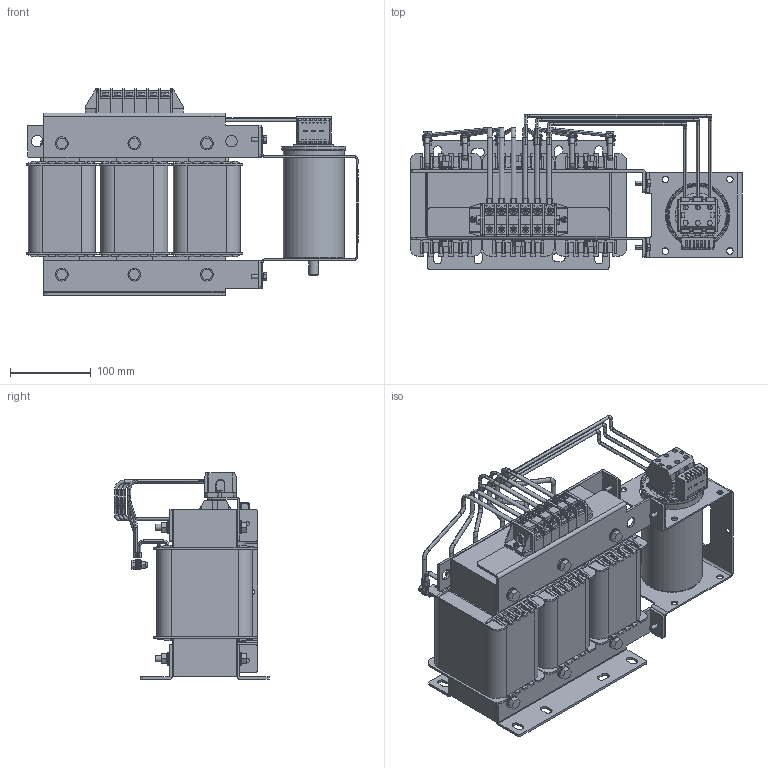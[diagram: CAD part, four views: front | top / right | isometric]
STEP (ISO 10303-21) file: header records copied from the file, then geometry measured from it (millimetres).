
FILE_DESCRIPTION (( 'STEP AP203' ), '1' );
FILE_NAME ('蔓躅漤铋 耔眢耥 翳朦蝠 _ ISINOF-22_48-4.STEP', '2026-07-17T07:49:14', ( '' ), ( '' ), 'SwSTEP 2.0', 'SolidWorks 2021', '' );
FILE_SCHEMA (( 'CONFIG_CONTROL_DESIGN' ));
Length unit declared in the file: millimetre
Products named in the file (217): 22KW滤波电抗器380V50Hz_119; 22KW滤波电抗器380V50Hz_203; 22KW滤波电抗器380V50Hz_30; 22KW滤波电抗器380V50Hz_108; 22KW滤波电抗器380V50Hz_59; 22KW滤波电抗器380V50Hz_6; 22KW滤波电抗器380V50Hz_182; 22KW滤波电抗器380V50Hz_51; 22KW滤波电抗器380V50Hz_189; 22KW滤波电抗器380V50Hz_128; 22KW滤波电抗器380V50Hz_57; 22KW滤波电抗器380V50Hz_167; 22KW滤波电抗器380V50Hz_72; 22KW滤波电抗器380V50Hz_129; 22KW滤波电抗器380V50Hz_215; 22KW滤波电抗器380V50Hz_97; 22KW滤波电抗器380V50Hz_90; 22KW滤波电抗器380V50Hz_33; 22KW滤波电抗器380V50Hz_43; 22KW滤波电抗器380V50Hz_177; 22KW滤波电抗器380V50Hz_1; 22KW滤波电抗器380V50Hz_13; 22KW滤波电抗器380V50Hz_124; 22KW滤波电抗器380V50Hz_111; 22KW滤波电抗器380V50Hz_125; 22KW滤波电抗器380V50Hz_208; 22KW滤波电抗器380V50Hz_73; 22KW滤波电抗器380V50Hz_170; 22KW滤波电抗器380V50Hz_66; 22KW滤波电抗器380V50Hz_56; 22KW滤波电抗器380V50Hz_23; 22KW滤波电抗器380V50Hz_76; 22KW滤波电抗器380V50Hz_34; 22KW滤波电抗器380V50Hz_63; 22KW滤波电抗器380V50Hz_106; 22KW滤波电抗器380V50Hz_29; 22KW滤波电抗器380V50Hz_171; 22KW滤波电抗器380V50Hz_162; 22KW滤波电抗器380V50Hz_164; 22KW滤波电抗器380V50Hz_118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
Assembly tree (216 placements, depth 2):
  蔓躅漤铋 耔眢耥 翳朦蝠 _ ISINOF-22_48-4
    22KW滤波电抗器380V50Hz_175
    22KW滤波电抗器380V50Hz_159
    22KW滤波电抗器380V50Hz_208
    22KW滤波电抗器380V50Hz_165
    22KW滤波电抗器380V50Hz_45
    22KW滤波电抗器380V50Hz_14
    22KW滤波电抗器380V50Hz_128
    22KW滤波电抗器380V50Hz_88
    22KW滤波电抗器380V50Hz_124
    22KW滤波电抗器380V50Hz_36
    22KW滤波电抗器380V50Hz_69
    22KW滤波电抗器380V50Hz_125
    22KW滤波电抗器380V50Hz_24
    22KW滤波电抗器380V50Hz_76
    22KW滤波电抗器380V50Hz_99
    22KW滤波电抗器380V50Hz_38
    22KW滤波电抗器380V50Hz_129
    22KW滤波电抗器380V50Hz_43
    22KW滤波电抗器380V50Hz_142
    22KW滤波电抗器380V50Hz_202
    22KW滤波电抗器380V50Hz_168
    22KW滤波电抗器380V50Hz_122
    22KW滤波电抗器380V50Hz_211
    22KW滤波电抗器380V50Hz_64
    22KW滤波电抗器380V50Hz_27
    22KW滤波电抗器380V50Hz_131
    22KW滤波电抗器380V50Hz_213
    22KW滤波电抗器380V50Hz_134
    22KW滤波电抗器380V50Hz_160
    22KW滤波电抗器380V50Hz_113
    22KW滤波电抗器380V50Hz_123
    22KW滤波电抗器380V50Hz_112
    22KW滤波电抗器380V50Hz_207
    22KW滤波电抗器380V50Hz_94
    22KW滤波电抗器380V50Hz_55
    22KW滤波电抗器380V50Hz_39
    22KW滤波电抗器380V50Hz_108
    22KW滤波电抗器380V50Hz_97
    22KW滤波电抗器380V50Hz_178
    22KW滤波电抗器380V50Hz_153
    22KW滤波电抗器380V50Hz_164
    22KW滤波电抗器380V50Hz_105
    22KW滤波电抗器380V50Hz_59
    22KW滤波电抗器380V50Hz_119
    22KW滤波电抗器380V50Hz_106
    22KW滤波电抗器380V50Hz_104
    22KW滤波电抗器380V50Hz_147
    22KW滤波电抗器380V50Hz_31
    22KW滤波电抗器380V50Hz_63
    22KW滤波电抗器380V50Hz_215
    22KW滤波电抗器380V50Hz_206
    22KW滤波电抗器380V50Hz_18
    22KW滤波电抗器380V50Hz_187
    22KW滤波电抗器380V50Hz_89
    22KW滤波电抗器380V50Hz_151
    22KW滤波电抗器380V50Hz_118
    22KW滤波电抗器380V50Hz_149
    22KW滤波电抗器380V50Hz_132
    22KW滤波电抗器380V50Hz_78
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Bounding box: 411.95 x 192.16 x 256 mm (x, y, z)
Volume: 6044866.4 mm3; surface area: 1274265.6 mm2
Topology: 216 solids, 216 shells, 3487 faces, 8801 edges, 5766 vertices
Faces by surface type: plane 2335, cylinder 824, bspline 148, cone 146, torus 34
Entity records: 136078 total; most frequent: CARTESIAN_POINT 29697, ORIENTED_EDGE 17602, DIRECTION 16373, EDGE_CURVE 8801, LINE 6277, VECTOR 6277, VERTEX_POINT 5766, AXIS2_PLACEMENT_3D 5048
